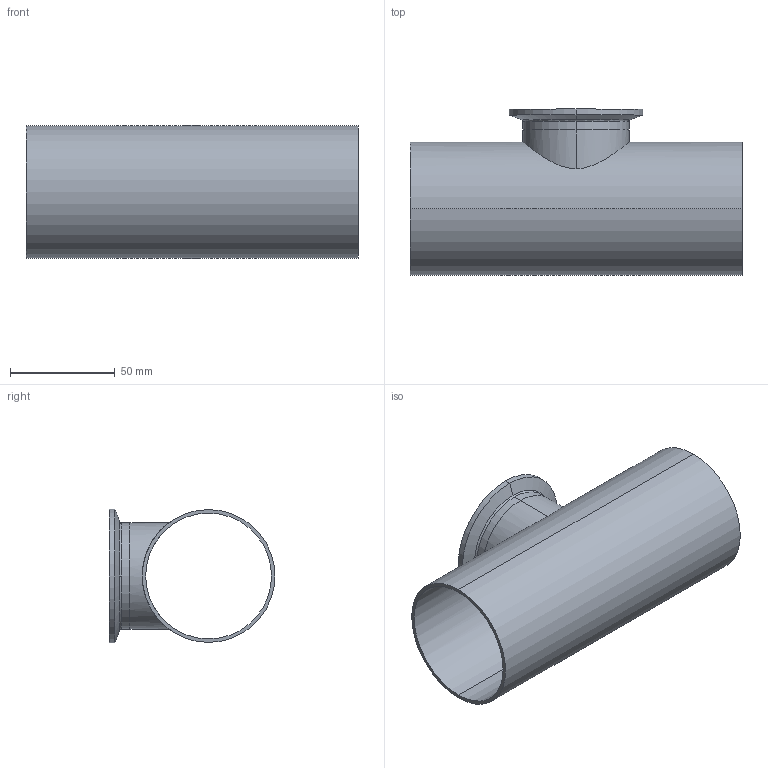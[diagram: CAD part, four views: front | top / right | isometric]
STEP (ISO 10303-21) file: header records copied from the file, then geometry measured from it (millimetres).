
FILE_DESCRIPTION (( 'STEP AP214' ), '1' );
FILE_NAME ('TE7RWWCS6L2.5x2.0-...STEP', '2016-05-23T12:13:39', ( 'eran' ), ( '' ), 'SwSTEP 2.0', 'SolidWorks 2016', '' );
FILE_SCHEMA (( 'AUTOMOTIVE_DESIGN' ));
Length unit declared in the file: millimetre
Products named in the file (1): TE7RWWCS6L2.5x2.0-..
Bounding box: 158.8 x 79.35 x 63.91 mm (x, y, z)
Volume: 57626.1 mm3; surface area: 68027 mm2
Topology: 2 solids, 2 shells, 36 faces, 88 edges, 58 vertices
Faces by surface type: cylinder 14, bspline 10, plane 6, cone 6
Entity records: 2060 total; most frequent: CARTESIAN_POINT 1155, DIRECTION 190, ORIENTED_EDGE 176, EDGE_CURVE 88, AXIS2_PLACEMENT_3D 85, VERTEX_POINT 58, CIRCLE 58, EDGE_LOOP 44
